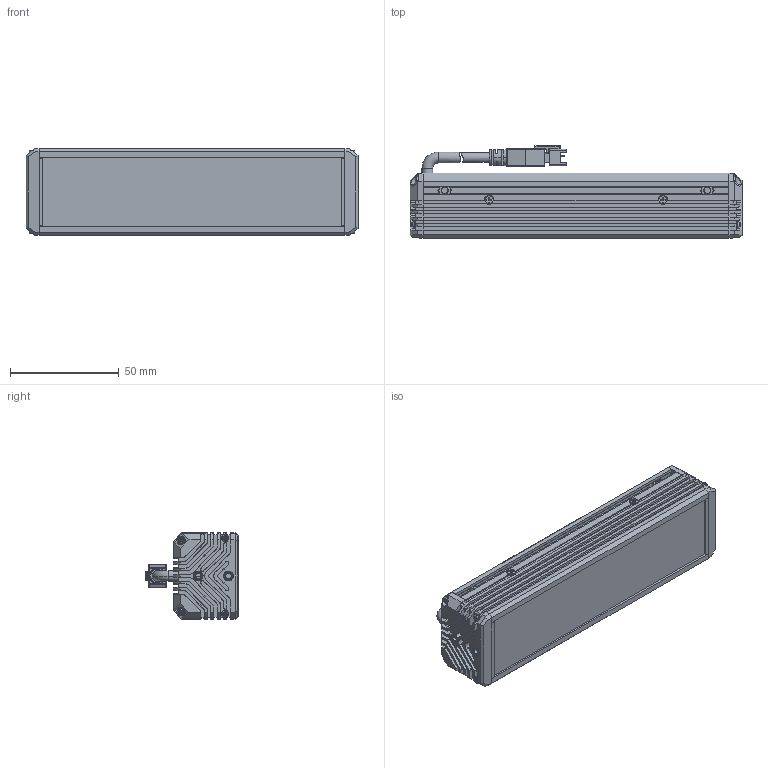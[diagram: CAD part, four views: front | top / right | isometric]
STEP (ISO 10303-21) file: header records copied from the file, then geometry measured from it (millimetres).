
FILE_DESCRIPTION((''),'2;1');
FILE_NAME('MV-LLDS-H-150-40-W-PL_ASM','2024-04-08T12:05:53',('huguozhe'),(''),'CREO PARAMETRIC BY PTC INC, 2020044','CREO PARAMETRIC BY PTC INC, 2020044','');
FILE_SCHEMA(('AUTOMOTIVE_DESIGN { 1 0 10303 214 1 1 1 1 }'));
Length unit declared in the file: millimetre
Products named in the file (15): DE-15-001176; DE-15-001175_ASM; DE-15-000474; DE-15-000473_ASM; DE-12-002350; TIP-M3X4-4_5X5-SO-ET-07061033; DE-12-002350_ASM; DE-12-001592; SC-KM2X6-BNI-GB819; XIANLAN_HEAD; CABLE_HEAD; CABLE_HEAD_ASM_ASM; 190100852; SC-PM2X6B-JMP; MV-LLDS-H-150-40-W-PL_ASM
Assembly tree (31 placements, depth 3):
  MV-LLDS-H-150-40-W-PL_ASM
    DE-15-001175_ASM
      DE-15-001176
    DE-15-000473_ASM
      DE-15-000474
    DE-12-002350_ASM  x2
      DE-12-002350
      TIP-M3X4-4_5X5-SO-ET-07061033
    DE-12-001592
    SC-KM2X6-BNI-GB819  x2
    CABLE_HEAD_ASM_ASM
      XIANLAN_HEAD
      CABLE_HEAD
    190100852  x8
    SC-PM2X6B-JMP  x8
Bounding box: 153 x 42.65 x 40 mm (x, y, z)
Volume: 142906.4 mm3; surface area: 81235.2 mm2
Topology: 29 solids, 61 shells, 2703 faces, 7019 edges, 4431 vertices
Faces by surface type: plane 1304, cylinder 557, bspline 472, cone 315, torus 46, sphere 8, extrusion 1
Entity records: 47923 total; most frequent: CARTESIAN_POINT 11198, ORIENTED_EDGE 6156, DIRECTION 5902, EDGE_CURVE 3106, VECTOR 2008, LINE 2007, VERTEX_POINT 1992, AXIS2_PLACEMENT_3D 1947
